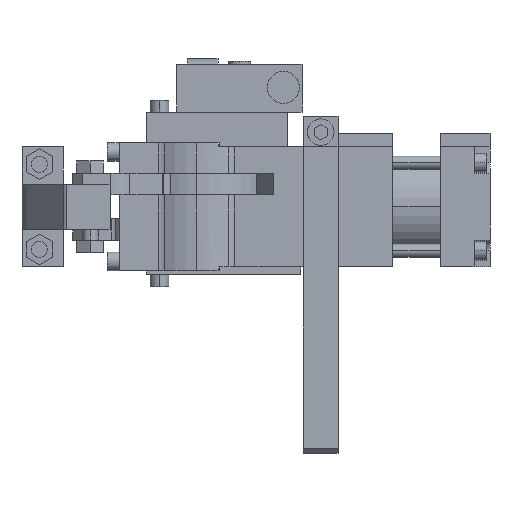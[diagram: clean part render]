
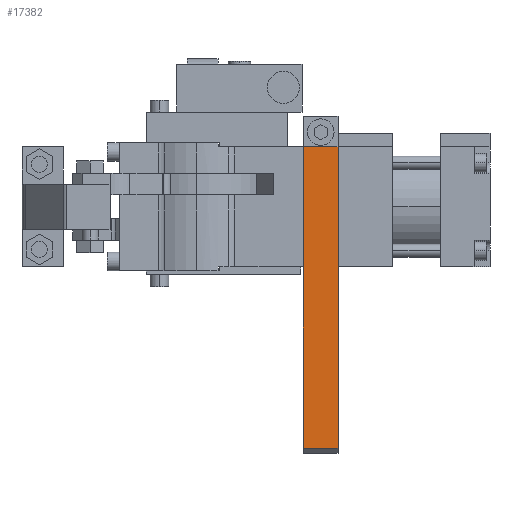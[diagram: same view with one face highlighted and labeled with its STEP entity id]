
A CAD part, left-side view. The second image highlights one B-rep face of the part: STEP entity #17382.
In plain terms, the highlighted planar face has unit normal (-1, 0, 0) as drawn and (0, 1, 0) by its records, which use the part's own axes.
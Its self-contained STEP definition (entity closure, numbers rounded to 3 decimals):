
#577 = PLANE ( 'NONE',  #7119 ) ;
#642 = DIRECTION ( 'NONE',  ( 1., 0., 0. ) ) ;
#722 = VERTEX_POINT ( 'NONE', #17467 ) ;
#906 = DIRECTION ( 'NONE',  ( -1., 0., 0. ) ) ;
#1723 = ORIENTED_EDGE ( 'NONE', *, *, #15086, .F. ) ;
#1733 = EDGE_LOOP ( 'NONE', ( #1723, #10501, #2532, #19385 ) ) ;
#1973 = LINE ( 'NONE', #13381, #9808 ) ;
#2532 = ORIENTED_EDGE ( 'NONE', *, *, #10219, .T. ) ;
#3688 = LINE ( 'NONE', #16470, #6871 ) ;
#4261 = DIRECTION ( 'NONE',  ( 0., 0., -1. ) ) ;
#6193 = CARTESIAN_POINT ( 'NONE',  ( 90.5, 22.5, 0. ) ) ;
#6871 = VECTOR ( 'NONE', #18034, 1000. ) ;
#7119 = AXIS2_PLACEMENT_3D ( 'NONE', #19222, #10017, #642 ) ;
#8039 = CARTESIAN_POINT ( 'NONE',  ( 90.5, 22.5, 13. ) ) ;
#9808 = VECTOR ( 'NONE', #906, 1000. ) ;
#10017 = DIRECTION ( 'NONE',  ( 0., -1., 0. ) ) ;
#10219 = EDGE_CURVE ( 'NONE', #18966, #722, #11303, .T. ) ;
#10501 = ORIENTED_EDGE ( 'NONE', *, *, #17102, .T. ) ;
#11303 = LINE ( 'NONE', #14969, #19475 ) ;
#11478 = LINE ( 'NONE', #13604, #15082 ) ;
#12905 = FACE_OUTER_BOUND ( 'NONE', #1733, .T. ) ;
#13171 = CARTESIAN_POINT ( 'NONE',  ( -22.5, 22.5, 13. ) ) ;
#13381 = CARTESIAN_POINT ( 'NONE',  ( -22.5, 22.5, 13. ) ) ;
#13604 = CARTESIAN_POINT ( 'NONE',  ( 90.5, 22.5, 13. ) ) ;
#14969 = CARTESIAN_POINT ( 'NONE',  ( -22.5, 22.5, 0. ) ) ;
#15082 = VECTOR ( 'NONE', #4261, 1000. ) ;
#15086 = EDGE_CURVE ( 'NONE', #16509, #15488, #1973, .T. ) ;
#15488 = VERTEX_POINT ( 'NONE', #13171 ) ;
#16470 = CARTESIAN_POINT ( 'NONE',  ( -22.5, 22.5, 13. ) ) ;
#16509 = VERTEX_POINT ( 'NONE', #8039 ) ;
#16531 = DIRECTION ( 'NONE',  ( -1., 0., 0. ) ) ;
#16811 = EDGE_CURVE ( 'NONE', #15488, #722, #3688, .T. ) ;
#17102 = EDGE_CURVE ( 'NONE', #16509, #18966, #11478, .T. ) ;
#17382 = ADVANCED_FACE ( 'NONE', ( #12905 ), #577, .F. ) ;
#17467 = CARTESIAN_POINT ( 'NONE',  ( -22.5, 22.5, 0. ) ) ;
#18034 = DIRECTION ( 'NONE',  ( 0., 0., -1. ) ) ;
#18966 = VERTEX_POINT ( 'NONE', #6193 ) ;
#19222 = CARTESIAN_POINT ( 'NONE',  ( -22.5, 22.5, 13. ) ) ;
#19385 = ORIENTED_EDGE ( 'NONE', *, *, #16811, .F. ) ;
#19475 = VECTOR ( 'NONE', #16531, 1000. ) ;
